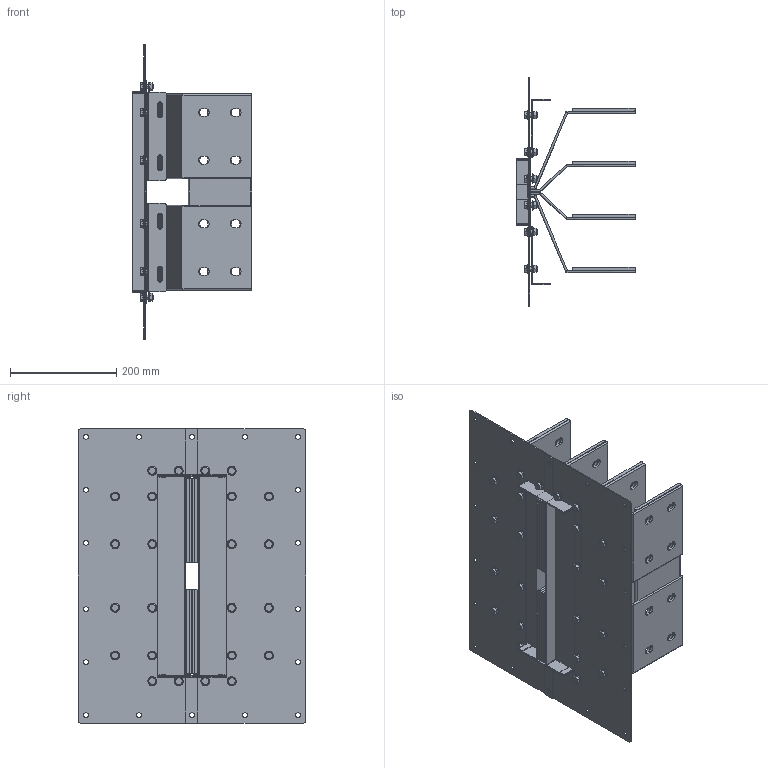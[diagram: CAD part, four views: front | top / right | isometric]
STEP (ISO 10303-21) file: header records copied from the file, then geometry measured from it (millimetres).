
FILE_DESCRIPTION(('CATIA V5 STEP','CAx-IF Rec.Pracs.--- Model Styling and Organization---1.5--- 2016-08-15','CAx-IF Rec.Pracs.---Supplemental Geometry---1.0---2011-11-01','CAx-IF Rec.Pracs.--- Composite Materials ---1.1---2010-07-15'),'2;1');
FILE_NAME('K:\COSCN 2011\32372311_RiduzioneSezioniBarre\03_Studio\__Modelli semplificati\XCP_UB semplificati per studi\XCP-HP_UB_4C_Pe_STD_Assieme\Cu\XCP-HP_UB_4C_Pe_D_Assieme - 3200A Cu\XCP-HP_UB_4C_Pe_D_Assieme - 3200A Cu.stp','2025-05-12T12:01:38+00:00',('Utente Bticino'),('Bticino S.p.A.'),'CATIA Version 5-6 Release 2020 SP5','CATIA V5 STEP AP214 v2','none');
FILE_SCHEMA(('AUTOMOTIVE_DESIGN { 1 0 10303 214 1 1 1 1 }'));
Length unit declared in the file: millimetre
Products named in the file (8): XCP-HP_UB_4C_Pe_D_Assieme - 3200A Cu; XCP-HP_UB_4C_Pe_D_PaccoBarre_3200A Cu; XCP-HP_UB_4C_Pe_D_Lamiere_3200A Cu; XCP-HP_UB_4C_Pe_D_PaccoBarre_3200A Cu_1; XCP-HP_UB_4C_Pe_D - 3200A Cu_Bandelle parallelo; Ass Vite+dado M8; Steel hex flanged SCREW M12x16; Steel hex flanged NUT M8
Assembly tree (30 placements, depth 3):
  XCP-HP_UB_4C_Pe_D_Assieme - 3200A Cu
    XCP-HP_UB_4C_Pe_D_PaccoBarre_3200A Cu
    XCP-HP_UB_4C_Pe_D_Lamiere_3200A Cu
    XCP-HP_UB_4C_Pe_D_PaccoBarre_3200A Cu_1
    XCP-HP_UB_4C_Pe_D - 3200A Cu_Bandelle parallelo
    Ass Vite+dado M8  x24
      Steel hex flanged SCREW M12x16
      Steel hex flanged NUT M8
Bounding box: 225 x 430 x 555 mm (x, y, z)
Volume: 3259220.6 mm3; surface area: 1920135.5 mm2
Topology: 70 solids, 70 shells, 1868 faces, 4632 edges, 2952 vertices
Faces by surface type: plane 792, cylinder 644, cone 192, bspline 192, torus 48
Entity records: 25540 total; most frequent: CARTESIAN_POINT 5502, ORIENTED_EDGE 4388, DIRECTION 3272, EDGE_CURVE 2194, VERTEX_POINT 1434, AXIS2_PLACEMENT_3D 1352, VECTOR 1340, LINE 1340
